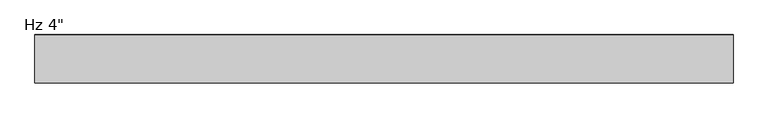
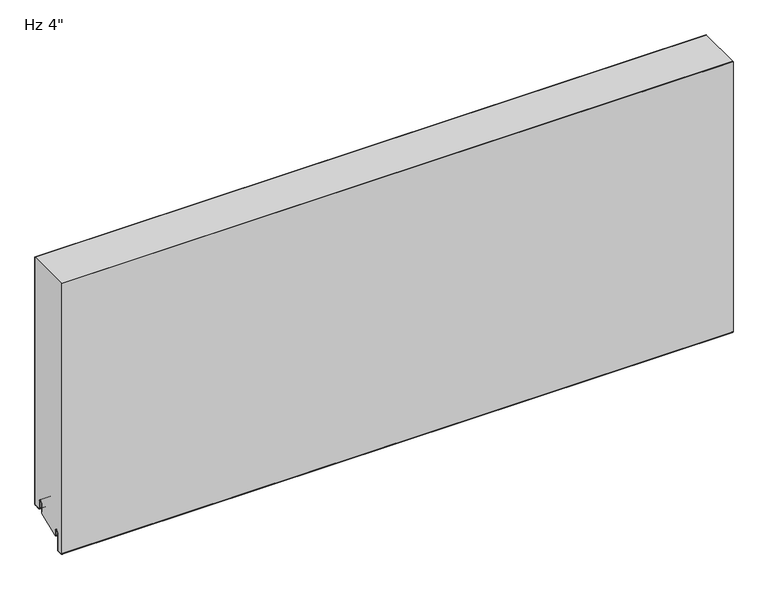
"""IFC4 building model written with IfcOpenShell, lengths in millimetres: plate geometry."""

import ifcopenshell
import ifcopenshell.guid

model = None  # the IFC model being written
_history = None  # IfcOwnerHistory: only IFC2X3 demands one
_inside = {}  # id of a spatial element -> (the spatial element, [elements in it])
_under = {}  # id of a project, library or spatial element -> (it, [spatial elements below it])
_declared = {}  # id of a project -> (the project, [libraries it declares])
_typed = {}  # id of a type object -> (the type object, [elements of that type])
_made_of = {}  # id of a material, layer set ... -> (it, [elements and type objects made of it])


def new_model(schema):
    """Start an empty IFC model of exactly this schema.

    Asked for "IFC4X3", IfcOpenShell would pick the latest addendum, in which some entities
    have other attributes; the version numbers below select the first issue.
    IFC2X3 requires an IfcOwnerHistory on every rooted entity: one is made here for all.
    """
    global model, _history
    if schema == "IFC4X3":
        model = ifcopenshell.file(schema_version=(4, 3, 0, 0))
    else:
        model = ifcopenshell.file(schema=schema)
    _inside.clear()
    _under.clear()
    _declared.clear()
    _typed.clear()
    _made_of.clear()
    _history = None
    if model.schema == "IFC2X3":
        org = make("IfcOrganization", Name="unknown")
        user = make(
            "IfcPersonAndOrganization",
            ThePerson=make("IfcPerson", FamilyName="unknown"),
            TheOrganization=org,
        )
        app = make(
            "IfcApplication",
            ApplicationDeveloper=org,
            Version="unknown",
            ApplicationFullName="unknown",
            ApplicationIdentifier="unknown",
        )
        _history = make(
            "IfcOwnerHistory",
            OwningUser=user,
            OwningApplication=app,
            ChangeAction="ADDED",
            CreationDate=0,
        )
    return model


def make(cls, **values):
    """One entity of the class cls with the attributes given. An attribute that is None is left unset."""
    return model.create_entity(
        cls, **{name: value for name, value in values.items() if value is not None}
    )


def rooted(cls, **values):
    """An entity with a GlobalId (a new one), such as an element, a storey or a relation."""
    return make(cls, GlobalId=ifcopenshell.guid.new(), OwnerHistory=_history, **values)


def si_unit(unit_type, name, prefix=None):
    """IfcSIUnit, for example si_unit("LENGTHUNIT", "METRE", prefix="MILLI")."""
    return make("IfcSIUnit", UnitType=unit_type, Prefix=prefix, Name=name)


def assignment(units):
    """IfcUnitAssignment: the units of a project."""
    return None if units is None else make("IfcUnitAssignment", Units=units)


def point(xyz):
    """IfcCartesianPoint."""
    return None if xyz is None else make("IfcCartesianPoint", Coordinates=xyz)


def direction(xyz):
    """IfcDirection."""
    return None if xyz is None else make("IfcDirection", DirectionRatios=xyz)


def frame(location, z_axis=None, x_axis=None):
    """IfcAxis2Placement3D, a coordinate frame: its origin and axes. An axis left out is left unset."""
    return make(
        "IfcAxis2Placement3D",
        Location=point(location),
        Axis=direction(z_axis),
        RefDirection=direction(x_axis),
    )


def frame_2d(location, x_axis=None):
    """IfcAxis2Placement2D, a coordinate frame in the plane: its origin and x axis."""
    return make(
        "IfcAxis2Placement2D", Location=point(location), RefDirection=direction(x_axis)
    )


def origin():
    """The frame at (0, 0, 0) with its axes left unset."""
    return frame((0.0, 0.0, 0.0))


def place(relative_to, where):
    """IfcLocalPlacement: puts the frame where relative to a parent placement (None: the world)."""
    return make(
        "IfcLocalPlacement", PlacementRelTo=relative_to, RelativePlacement=where
    )


def context(
    kind, dimensions, precision=None, world=None, true_north=None, identifier=None
):
    """IfcGeometricRepresentationContext, for example the 3D "Model" context."""
    return make(
        "IfcGeometricRepresentationContext",
        ContextIdentifier=identifier,
        ContextType=kind,
        CoordinateSpaceDimension=dimensions,
        Precision=precision,
        WorldCoordinateSystem=world,
        TrueNorth=true_north,
    )


def project(units=None, contexts=None):
    """IfcProject with its units and contexts."""
    return rooted(
        "IfcProject",
        Name="project",
        RepresentationContexts=contexts,
        UnitsInContext=assignment(units),
    )


def spatial(cls, under=None, at=None, **own):
    """A site, building, storey or space (cls), placed at a placement, below another one or the project."""
    s = rooted(cls, ObjectPlacement=at, **own)
    if under is not None:
        _under.setdefault(under.id(), (under, []))[1].append(s)
    return s


def polyline(points):
    """IfcPolyline through the points."""
    return make("IfcPolyline", Points=[point(p) for p in points])


def circle_curve(where, radius):
    """IfcCircle in the frame where."""
    return make("IfcCircle", Position=where, Radius=radius)


def trimmed(basis, trim1, trim2, sense, master):
    """IfcTrimmedCurve: the piece of a basis curve between two trims."""
    return make(
        "IfcTrimmedCurve",
        BasisCurve=basis,
        Trim1=trim1,
        Trim2=trim2,
        SenseAgreement=sense,
        MasterRepresentation=master,
    )


def segment(curve, same_sense, transition):
    """IfcCompositeCurveSegment."""
    return make(
        "IfcCompositeCurveSegment",
        Transition=transition,
        SameSense=same_sense,
        ParentCurve=curve,
    )


def composite_curve(segments, self_intersect=None):
    """IfcCompositeCurve: segments joined end to end."""
    return make("IfcCompositeCurve", Segments=segments, SelfIntersect=self_intersect)


def outline(outer, holes=None, kind="AREA"):
    """IfcArbitraryClosedProfileDef: a profile drawn as a closed curve; with holes, ...WithVoids."""
    if holes is None:
        return make("IfcArbitraryClosedProfileDef", ProfileType=kind, OuterCurve=outer)
    return make(
        "IfcArbitraryProfileDefWithVoids",
        ProfileType=kind,
        OuterCurve=outer,
        InnerCurves=holes,
    )


def extrude(swept, where, along, depth):
    """IfcExtrudedAreaSolid: the profile swept, set in the frame where, extruded along a direction by depth."""
    return make(
        "IfcExtrudedAreaSolid",
        SweptArea=swept,
        Position=where,
        ExtrudedDirection=direction(along),
        Depth=depth,
    )


def shape(context_of_items, identifier, shape_type, items):
    """IfcShapeRepresentation: the items that make up one representation, for example the "Body"."""
    return make(
        "IfcShapeRepresentation",
        ContextOfItems=context_of_items,
        RepresentationIdentifier=identifier,
        RepresentationType=shape_type,
        Items=items,
    )


def source(mapping_origin, context_of_items, identifier, shape_type, items):
    """IfcRepresentationMap: a shape defined once, which mapped items show again and again."""
    return make(
        "IfcRepresentationMap",
        MappingOrigin=mapping_origin,
        MappedRepresentation=shape(context_of_items, identifier, shape_type, items),
    )


def transform(
    local_origin,
    x_axis=None,
    y_axis=None,
    z_axis=None,
    scale=None,
    scale2=None,
    scale3=None,
    uniform=True,
):
    """IfcCartesianTransformationOperator3D, or its non-uniform kind. x_axis, y_axis, z_axis: its Axis1, 2, 3."""
    if uniform:
        return make(
            "IfcCartesianTransformationOperator3D",
            Axis1=direction(x_axis),
            Axis2=direction(y_axis),
            LocalOrigin=point(local_origin),
            Scale=scale,
            Axis3=direction(z_axis),
        )
    return make(
        "IfcCartesianTransformationOperator3DnonUniform",
        Axis1=direction(x_axis),
        Axis2=direction(y_axis),
        LocalOrigin=point(local_origin),
        Scale=scale,
        Axis3=direction(z_axis),
        Scale2=scale2,
        Scale3=scale3,
    )


def mapped(mapping_source, mapping_target):
    """IfcMappedItem: shows the shape of a source again, moved by a transform."""
    return make(
        "IfcMappedItem", MappingSource=mapping_source, MappingTarget=mapping_target
    )


def made_of(thing, what):
    """Note that an element or type object is made of a material, layer set ...; save() writes the relation."""
    if what is not None:
        _made_of.setdefault(what.id(), (what, []))[1].append(thing)
    return thing


def element(
    cls,
    number,
    at=None,
    inside=None,
    cuts=None,
    type_object=None,
    material=None,
    context=None,
    identifier="Body",
    shape_type=None,
    held_by="IfcProductDefinitionShape",
    body=None,
    shapes=None,
    **own,
):
    """One element of the class cls, such as IfcWall. Its Tag is "e" and its number.

    at: its placement. inside: the storey or other place that contains it. cuts: it is an
    opening in that element (IfcRelVoidsElement). A single representation is given by context,
    identifier, shape_type and body (its items); several are given by shapes. held_by: the class
    of the entity that holds the representations. save() writes the other relations.
    """
    e = rooted(cls, Tag="e%d" % number, ObjectPlacement=at, **own)
    if body is not None:
        shapes = [shape(context, identifier, shape_type, body)]
    if shapes is not None:
        e.Representation = make(held_by, Representations=shapes)
    if inside is not None:
        _inside.setdefault(inside.id(), (inside, []))[1].append(e)
    if cuts is not None:
        rooted(
            "IfcRelVoidsElement", RelatingBuildingElement=cuts, RelatedOpeningElement=e
        )
    if type_object is not None:
        _typed.setdefault(type_object.id(), (type_object, []))[1].append(e)
    return made_of(e, material)


def aggregate(whole, parts):
    """IfcRelAggregates: a whole, such as a stair, and the parts it consists of."""
    return rooted("IfcRelAggregates", RelatingObject=whole, RelatedObjects=parts)


def save(model, path):
    """Write the relations noted so far, then the file.

    IfcRelAggregates (storeys below a building ...), IfcRelContainedInSpatialStructure (elements
    in a storey), IfcRelDefinesByType, IfcRelAssociatesMaterial and IfcRelDeclares: one each for
    every whole, place, type object, material and project.
    """
    for whole, parts in _under.values():
        aggregate(whole, parts)
    for where, things in _inside.values():
        rooted(
            "IfcRelContainedInSpatialStructure",
            RelatedElements=things,
            RelatingStructure=where,
        )
    for kind, things in _typed.values():
        rooted("IfcRelDefinesByType", RelatedObjects=things, RelatingType=kind)
    for what, things in _made_of.values():
        rooted("IfcRelAssociatesMaterial", RelatedObjects=things, RelatingMaterial=what)
    for by, libraries in _declared.values():
        rooted("IfcRelDeclares", RelatingContext=by, RelatedDefinitions=libraries)
    model.write(path)


def plate_3bbae645(model_context):
    return source(origin(), model_context, "Body", "SweptSolid", [
        extrude(outline(composite_curve([segment(trimmed(circle_curve(frame_2d((-21.43125, 19.05)), 4.96875), [point((-16.4625, 19.05))], [point((-26.4, 19.05))], True, "CARTESIAN"), True, "CONTINUOUS"), segment(polyline([(-26.4, 19.05), (-26.4, -3.1323422), (-74.6157227, -23.01875), (-76.2, -23.01875), (-76.2, -13.5080174), (-76.99375, -13.5080174), (-76.7875, -11.9205174)]), True, "CONTINUOUS"), segment(trimmed(circle_curve(frame_2d((-81.75625, -11.9205174)), 4.96875), [point((-76.7875, -11.9205174))], [point((-86.725, -11.9205174))], True, "CARTESIAN"), True, "CONTINUOUS"), segment(polyline([(-86.725, -11.9205174), (-86.725, -50.1038221)]), True, "CONTINUOUS"), segment(trimmed(circle_curve(frame_2d((-88.10625, -50.1038221)), 1.38125), [point((-86.725, -50.1038221))], [point((-88.033961, -51.4831791))], False, "CARTESIAN"), True, "CONTINUOUS"), segment(polyline([(-88.033961, -51.4831791), (-99.146461, -52.0655606)]), True, "CONTINUOUS"), segment(trimmed(circle_curve(frame_2d((-99.21875, -50.6862035)), 1.38125), [point((-99.146461, -52.0655606))], [point((-100.6, -50.6862035))], False, "CARTESIAN"), True, "CONTINUOUS"), segment(polyline([(-100.6, -50.6862035), (-100.6, 571.2), (-1.0, 571.2), (-1.0, 3.175)]), True, "CONTINUOUS"), segment(trimmed(circle_curve(frame_2d((-2.38125, 3.175)), 1.38125), [point((-1.0, 3.175))], [point((-2.38125, 1.79375))], False, "CARTESIAN"), True, "CONTINUOUS"), segment(polyline([(-2.38125, 1.79375), (-15.08125, 1.79375)]), True, "CONTINUOUS"), segment(trimmed(circle_curve(frame_2d((-15.08125, 3.175)), 1.38125), [point((-15.08125, 1.79375))], [point((-16.4625, 3.175))], False, "CARTESIAN"), True, "CONTINUOUS"), segment(polyline([(-16.4625, 3.175), (-16.4625, 19.05)]), True, "CONTINUOUS")], self_intersect=False)), frame((-730.0, 0.0, 0.0), z_axis=(1.0, 0.0, 0.0), x_axis=(0.0, 1.0, 0.0)), (0.0, 0.0, 1.0), 1460.0),
        extrude(outline(composite_curve([segment(polyline([(-25.4, 0.79375), (-26.4, 0.79375), (-26.4, 19.05)]), True, "CONTINUOUS"), segment(trimmed(circle_curve(frame_2d((-21.43125, 19.05)), 4.96875), [point((-26.4, 19.05))], [point((-16.4625, 19.05))], False, "CARTESIAN"), True, "CONTINUOUS"), segment(polyline([(-16.4625, 19.05), (-16.4625, 3.175)]), True, "CONTINUOUS"), segment(trimmed(circle_curve(frame_2d((-15.08125, 3.175)), 1.38125), [point((-16.4625, 3.175))], [point((-15.08125, 1.79375))], True, "CARTESIAN"), True, "CONTINUOUS"), segment(polyline([(-15.08125, 1.79375), (-2.38125, 1.79375)]), True, "CONTINUOUS"), segment(trimmed(circle_curve(frame_2d((-2.38125, 3.175)), 1.38125), [point((-2.38125, 1.79375))], [point((-1.0, 3.175))], True, "CARTESIAN"), True, "CONTINUOUS"), segment(polyline([(-1.0, 3.175), (-1.0, 571.2), (0.0, 571.2), (0.0, 3.175)]), True, "CONTINUOUS"), segment(trimmed(circle_curve(frame_2d((-2.38125, 3.175)), 2.38125), [point((0.0, 3.175))], [point((-2.38125, 0.79375))], False, "CARTESIAN"), True, "CONTINUOUS"), segment(polyline([(-2.38125, 0.79375), (-15.08125, 0.79375)]), True, "CONTINUOUS"), segment(trimmed(circle_curve(frame_2d((-15.08125, 3.175)), 2.38125), [point((-15.08125, 0.79375))], [point((-17.4625, 3.175))], False, "CARTESIAN"), True, "CONTINUOUS"), segment(polyline([(-17.4625, 3.175), (-17.4625, 19.05)]), True, "CONTINUOUS"), segment(trimmed(circle_curve(frame_2d((-21.43125, 19.05)), 3.96875), [point((-17.4625, 19.05))], [point((-25.4, 19.05))], True, "CARTESIAN"), True, "CONTINUOUS"), segment(polyline([(-25.4, 19.05), (-25.4, 0.79375)]), True, "CONTINUOUS")], self_intersect=False)), frame((-730.0, 0.0, 0.0), z_axis=(1.0, 0.0, 0.0), x_axis=(0.0, 1.0, 0.0)), (0.0, 0.0, 1.0), 1460.0),
        extrude(outline(composite_curve([segment(trimmed(circle_curve(frame_2d((-76.99375, -23.2314549)), 0.79375), [point((-76.2, -23.2314549))], [point((-77.7875, -23.2314549))], False, "CARTESIAN"), True, "CONTINUOUS"), segment(polyline([(-77.7875, -23.2314549), (-77.7875, -11.9205174)]), True, "CONTINUOUS"), segment(trimmed(circle_curve(frame_2d((-81.75625, -11.9205174)), 3.96875), [point((-77.7875, -11.9205174))], [point((-85.725, -11.9205174))], True, "CARTESIAN"), True, "CONTINUOUS"), segment(polyline([(-85.725, -11.9205174), (-85.725, -50.1038221)]), True, "CONTINUOUS"), segment(trimmed(circle_curve(frame_2d((-88.10625, -50.1038221)), 2.38125), [point((-85.725, -50.1038221))], [point((-87.981625, -52.4818086))], False, "CARTESIAN"), True, "CONTINUOUS"), segment(polyline([(-87.981625, -52.4818086), (-99.094125, -53.0641901)]), True, "CONTINUOUS"), segment(trimmed(circle_curve(frame_2d((-99.21875, -50.6862035)), 2.38125), [point((-99.094125, -53.0641901))], [point((-101.6, -50.6862035))], False, "CARTESIAN"), True, "CONTINUOUS"), segment(polyline([(-101.6, -50.6862035), (-101.6, 571.2), (-100.6, 571.2), (-100.6, -50.6862035)]), True, "CONTINUOUS"), segment(trimmed(circle_curve(frame_2d((-99.21875, -50.6862035)), 1.38125), [point((-100.6, -50.6862035))], [point((-99.146461, -52.0655606))], True, "CARTESIAN"), True, "CONTINUOUS"), segment(polyline([(-99.146461, -52.0655606), (-88.033961, -51.4831791)]), True, "CONTINUOUS"), segment(trimmed(circle_curve(frame_2d((-88.10625, -50.1038221)), 1.38125), [point((-88.033961, -51.4831791))], [point((-86.725, -50.1038221))], True, "CARTESIAN"), True, "CONTINUOUS"), segment(polyline([(-86.725, -50.1038221), (-86.725, -11.9205174)]), True, "CONTINUOUS"), segment(trimmed(circle_curve(frame_2d((-81.75625, -11.9205174)), 4.96875), [point((-86.725, -11.9205174))], [point((-76.7875, -11.9205174))], False, "CARTESIAN"), True, "CONTINUOUS"), segment(polyline([(-76.7875, -11.9205174), (-76.99375, -13.5080174), (-76.2, -13.5080174), (-76.2, -23.2314549)]), True, "CONTINUOUS")], self_intersect=False)), frame((-730.0, 0.0, 0.0), z_axis=(1.0, 0.0, 0.0), x_axis=(0.0, 1.0, 0.0)), (0.0, 0.0, 1.0), 1460.0),
    ])


if __name__ == "__main__":
    model = new_model("IFC4")
    model_context = context("Model", 3, world=origin())
    ifc_project = project(units=[si_unit("LENGTHUNIT", "METRE", prefix="MILLI")], contexts=[model_context])
    site = spatial("IfcSite", under=ifc_project)
    building = spatial("IfcBuilding", under=site)
    placement = place(None, origin())
    plate_shape = plate_3bbae645(model_context)
    element("IfcPlate", 1, ObjectType="KIP-36-DWTR-R19-CP-Hz-F : Hz 4\"", at=placement, inside=building, context=model_context, shape_type="MappedRepresentation", body=[
        mapped(plate_shape, transform((0.0, 0.0, 0.0), x_axis=(1.0, 0.0, 0.0), y_axis=(0.0, 1.0, 0.0), z_axis=(0.0, 0.0, 1.0))),
    ])
    save(model, "model.ifc")
